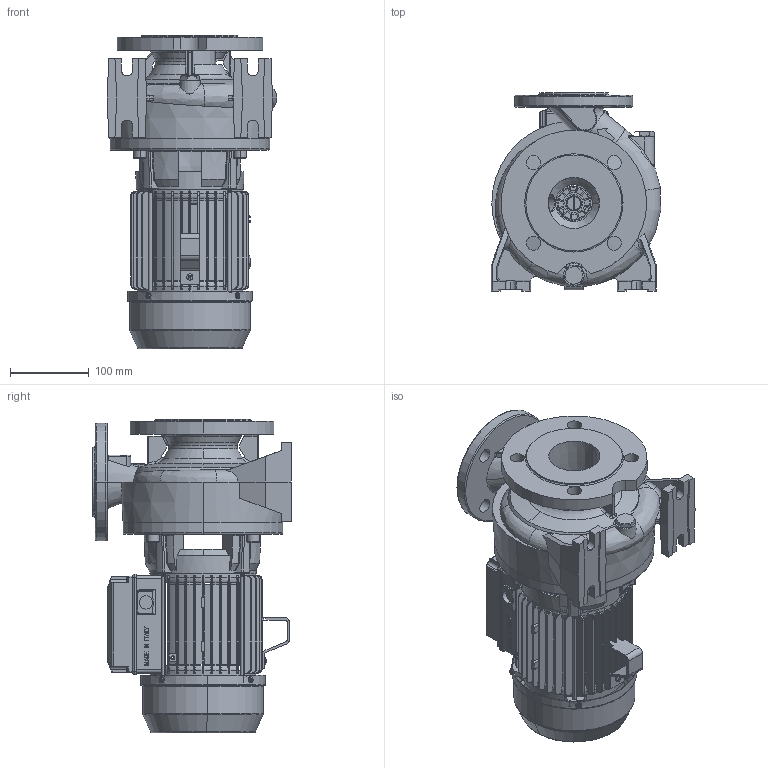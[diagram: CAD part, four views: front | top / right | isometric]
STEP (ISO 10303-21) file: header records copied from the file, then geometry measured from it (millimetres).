
FILE_DESCRIPTION (( 'STEP AP203' ), '1' );
FILE_NAME ('CN40-125C.STEP', '2020-03-05T16:55:57', ( '' ), ( '' ), 'SwSTEP 2.0', 'SolidWorks 2019', '' );
FILE_SCHEMA (( 'CONFIG_CONTROL_DESIGN' ));
Products named in the file (2): CN40-125C
Bounding box: 215.46 x 252 x 399 mm (x, y, z)
Surface area: 614076.4 mm2 (no closed solid volume)
Topology: 0 solids, 38 shells, 2077 faces, 7109 edges, 4888 vertices
Faces by surface type: plane 841, cylinder 663, torus 277, bspline 161, cone 112, sphere 23
Entity records: 120247 total; most frequent: CARTESIAN_POINT 63754, ORIENTED_EDGE 11908, DIRECTION 10506, EDGE_CURVE 7088, VERTEX_POINT 4884, AXIS2_PLACEMENT_3D 3533, VECTOR 3440, LINE 3440
